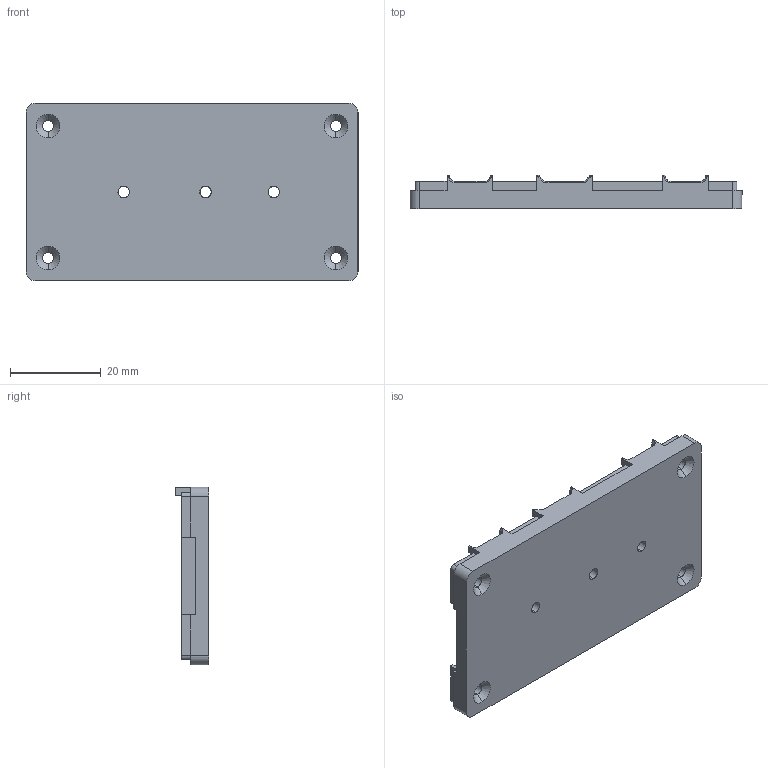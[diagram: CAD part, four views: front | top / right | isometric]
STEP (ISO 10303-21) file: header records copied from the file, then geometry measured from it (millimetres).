
FILE_DESCRIPTION (( 'STEP AP214' ), '1' );
FILE_NAME ('LubanCat zero W 菁裔.STEP', '2024-09-14T02:26:54', ( '' ), ( '' ), 'SwSTEP 2.0', 'SolidWorks 2021', '' );
FILE_SCHEMA (( 'AUTOMOTIVE_DESIGN' ));
Length unit declared in the file: millimetre
Products named in the file (1): LubanCat zero W 菁裔
Bounding box: 73 x 7.4 x 39 mm (x, y, z)
Volume: 6949.1 mm3; surface area: 7918.7 mm2
Topology: 1 solids, 1 shells, 150 faces, 397 edges, 252 vertices
Faces by surface type: plane 78, cylinder 44, cone 28
Entity records: 6038 total; most frequent: CARTESIAN_POINT 824, DIRECTION 808, ORIENTED_EDGE 794, EDGE_CURVE 397, VECTOR 274, LINE 274, AXIS2_PLACEMENT_3D 267, VERTEX_POINT 252
